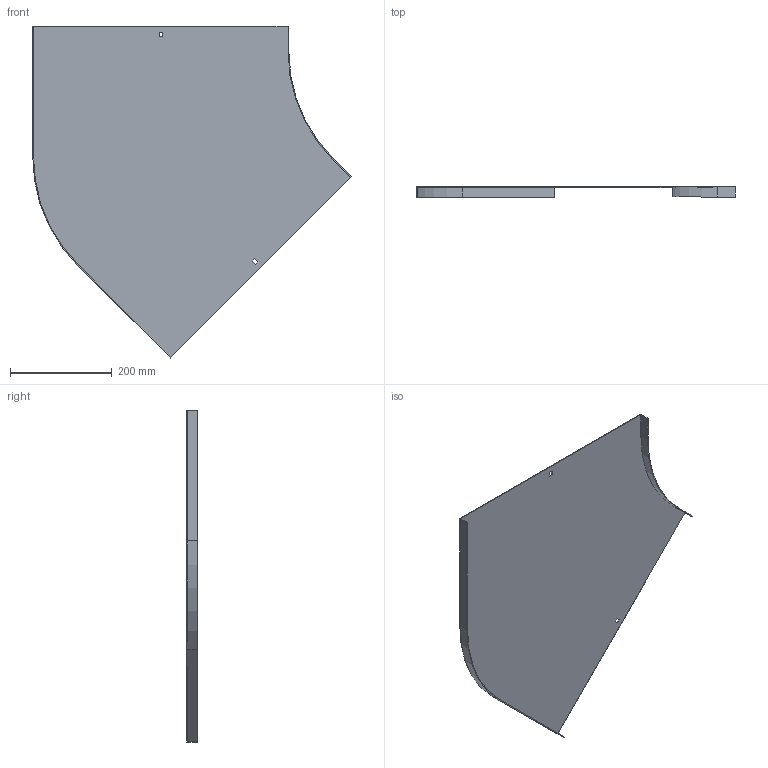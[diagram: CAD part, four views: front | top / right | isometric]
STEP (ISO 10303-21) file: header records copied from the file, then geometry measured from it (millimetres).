
FILE_DESCRIPTION (( 'STEP AP214' ), '1' );
FILE_NAME ('B2_11N3R500.step', '2025-02-21T10:51:11', ( '' ), ( '' ), 'SwSTEP 2.0', 'SolidWorks 2023', '' );
FILE_SCHEMA (( 'AUTOMOTIVE_DESIGN' ));
Length unit declared in the file: millimetre
Products named in the file (1): B2_11N3R500
Bounding box: 625.78 x 20 x 652.1 mm (x, y, z)
Volume: 449114.3 mm3; surface area: 602160.2 mm2
Topology: 1 solids, 1 shells, 26 faces, 72 edges, 48 vertices
Faces by surface type: plane 22, cylinder 4
Entity records: 855 total; most frequent: CARTESIAN_POINT 147, ORIENTED_EDGE 144, DIRECTION 134, EDGE_CURVE 72, VECTOR 64, LINE 64, VERTEX_POINT 48, AXIS2_PLACEMENT_3D 35
